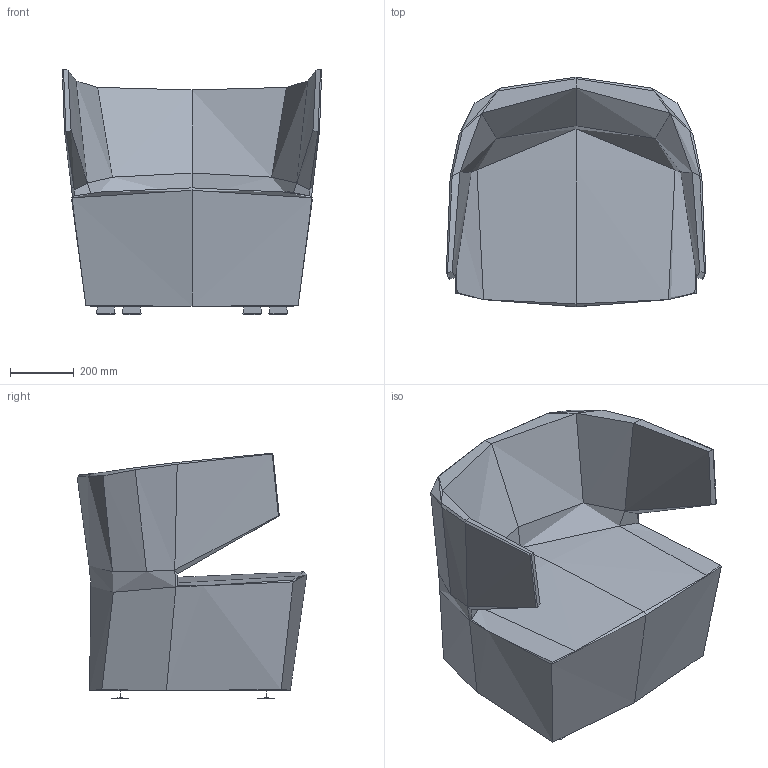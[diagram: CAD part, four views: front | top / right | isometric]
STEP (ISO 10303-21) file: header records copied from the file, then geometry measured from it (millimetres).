
FILE_DESCRIPTION(/* description */ (''),/* implementation_level */ '2;1');
FILE_NAME(/* name */ 'CLUBK1~1',/* time_stamp */ '2017-03-10T16:48:38+01:00',/* author */ (''),/* organization */ (''),/* preprocessor_version */ 'ST-DEVELOPER v15',/* originating_system */ '',/* authorisation */ '');
FILE_SCHEMA (('CONFIG_CONTROL_DESIGN'));
Length unit declared in the file: millimetre
Products named in the file (1): Document
Bounding box: 813.27 x 719.65 x 770.13 mm (x, y, z)
Surface area: 2872566.7 mm2 (no closed solid volume)
Topology: 0 solids, 6 shells, 88 faces, 209 edges, 123 vertices
Faces by surface type: bspline 84, plane 4
Entity records: 17808 total; most frequent: CARTESIAN_POINT 16716, ORIENTED_EDGE 356, EDGE_CURVE 202, VERTEX_POINT 120, ADVANCED_FACE 88, FACE_OUTER_BOUND 88, EDGE_LOOP 88, B_SPLINE_CURVE_WITH_KNOTS 19
